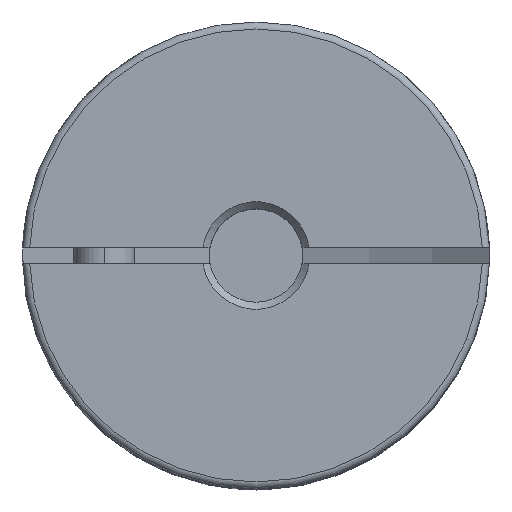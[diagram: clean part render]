
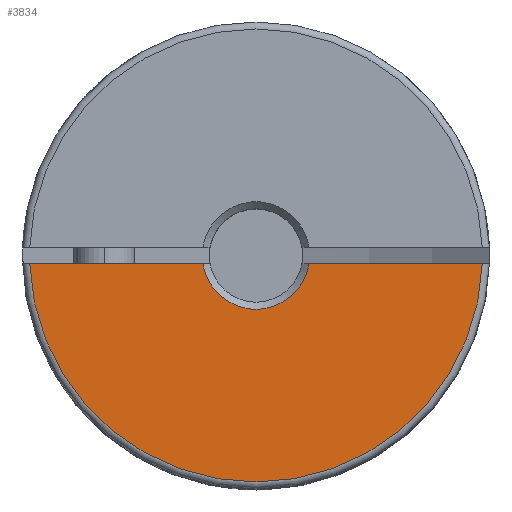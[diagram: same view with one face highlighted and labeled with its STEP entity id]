
A CAD part, top view. The second image highlights one B-rep face of the part: STEP entity #3834.
In plain terms, the highlighted planar face has unit normal (0, 0, 1).
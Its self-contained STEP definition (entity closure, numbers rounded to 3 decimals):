
#6 = EDGE_LOOP ( 'NONE', ( #337, #341, #340, #342 ) ) ;
#337 = ORIENTED_EDGE ( 'NONE', *, *, #3970, .F. ) ;
#340 = ORIENTED_EDGE ( 'NONE', *, *, #3803, .F. ) ;
#341 = ORIENTED_EDGE ( 'NONE', *, *, #3650, .T. ) ;
#342 = ORIENTED_EDGE ( 'NONE', *, *, #3605, .T. ) ;
#1266 = CIRCLE ( 'NONE', #5798, 9.7 ) ;
#1277 = CIRCLE ( 'NONE', #5855, 2.3 ) ;
#1698 = LINE ( 'NONE', #1699, #5230 ) ;
#1699 = CARTESIAN_POINT ( 'NONE',  ( -10., -0.35, 12.85 ) ) ;
#1700 = DIRECTION ( 'NONE',  ( 1., 0., 0. ) ) ;
#1806 = PLANE ( 'NONE',  #5254 ) ;
#1807 = CARTESIAN_POINT ( 'NONE',  ( 0., 0., 12.85 ) ) ;
#1808 = DIRECTION ( 'NONE',  ( 0., 0., -1. ) ) ;
#1809 = DIRECTION ( 'NONE',  ( -1., 0., 0. ) ) ;
#2272 = LINE ( 'NONE', #2273, #5410 ) ;
#2273 = CARTESIAN_POINT ( 'NONE',  ( -10., -0.35, 12.85 ) ) ;
#2274 = DIRECTION ( 'NONE',  ( 1., 0., 0. ) ) ;
#2741 = CARTESIAN_POINT ( 'NONE',  ( 9.694, -0.35, 12.85 ) ) ;
#2742 = CARTESIAN_POINT ( 'NONE',  ( 2.273, -0.35, 12.85 ) ) ;
#2745 = CARTESIAN_POINT ( 'NONE',  ( -2.273, -0.35, 12.85 ) ) ;
#2746 = CARTESIAN_POINT ( 'NONE',  ( -9.694, -0.35, 12.85 ) ) ;
#3605 = EDGE_CURVE ( 'NONE', #4172, #4167, #1266, .T. ) ;
#3650 = EDGE_CURVE ( 'NONE', #4168, #4171, #1277, .T. ) ;
#3803 = EDGE_CURVE ( 'NONE', #4172, #4171, #1698, .T. ) ;
#3834 = ADVANCED_FACE ( 'NONE', ( #5253 ), #1806, .F. ) ;
#3970 = EDGE_CURVE ( 'NONE', #4168, #4167, #2272, .T. ) ;
#4167 = VERTEX_POINT ( 'NONE', #2741 ) ;
#4168 = VERTEX_POINT ( 'NONE', #2742 ) ;
#4171 = VERTEX_POINT ( 'NONE', #2745 ) ;
#4172 = VERTEX_POINT ( 'NONE', #2746 ) ;
#5230 = VECTOR ( 'NONE', #1700, 1000. ) ;
#5253 = FACE_OUTER_BOUND ( 'NONE', #6, .T. ) ;
#5254 = AXIS2_PLACEMENT_3D ( 'NONE', #1807, #1808, #1809 ) ;
#5410 = VECTOR ( 'NONE', #2274, 1000. ) ;
#5798 = AXIS2_PLACEMENT_3D ( 'NONE', #6766, #6767, #6768 ) ;
#5855 = AXIS2_PLACEMENT_3D ( 'NONE', #6909, #6910, #6911 ) ;
#6766 = CARTESIAN_POINT ( 'NONE',  ( 0., 0., 12.85 ) ) ;
#6767 = DIRECTION ( 'NONE',  ( 0., 0., 1. ) ) ;
#6768 = DIRECTION ( 'NONE',  ( -1., 0., 0. ) ) ;
#6909 = CARTESIAN_POINT ( 'NONE',  ( 0., 0., 12.85 ) ) ;
#6910 = DIRECTION ( 'NONE',  ( 0., 0., -1. ) ) ;
#6911 = DIRECTION ( 'NONE',  ( -1., 0., 0. ) ) ;
